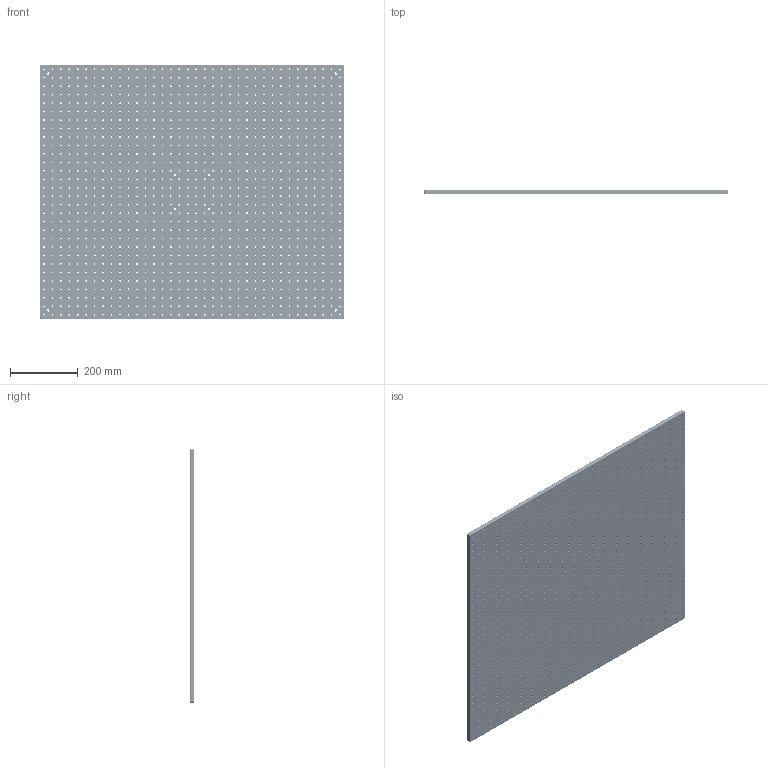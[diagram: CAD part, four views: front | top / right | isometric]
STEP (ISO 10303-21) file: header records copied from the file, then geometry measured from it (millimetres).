
FILE_DESCRIPTION (( 'STEP AP203' ), '1' );
FILE_NAME ('M-SAB-7590-13.step', '2017-01-10T01:17:07', ( '¦K¬P' ), ( '' ), 'SwSTEP 2.0', 'SolidWorks 2012', '' );
FILE_SCHEMA (( 'CONFIG_CONTROL_DESIGN' ));
Length unit declared in the file: millimetre
Products named in the file (1): M-SAB-7590-13
Bounding box: 900 x 13 x 750 mm (x, y, z)
Volume: 8485093.6 mm3; surface area: 1567533.3 mm2
Topology: 1 solids, 1 shells, 1130 faces, 3344 edges, 2224 vertices
Faces by surface type: cylinder 1108, plane 14, torus 8
Full cylindrical faces by diameter (mm): 5 x1080, 7 x8, 11 x8
Entity records: 38093 total; most frequent: DIRECTION 6734, CARTESIAN_POINT 5603, ORIENTED_EDGE 4496, EDGE_LOOP 4410, AXIS2_PLACEMENT_3D 3355, EDGE_CURVE 2248, FACE_OUTER_BOUND 2226, CIRCLE 2224
